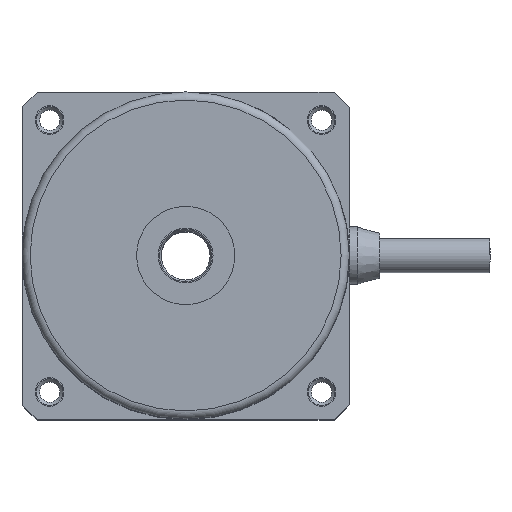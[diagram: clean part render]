
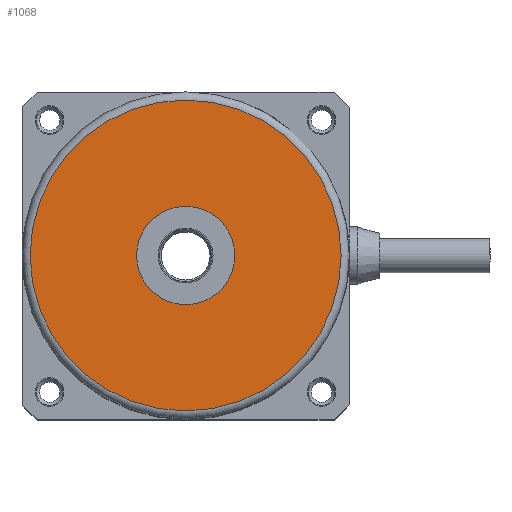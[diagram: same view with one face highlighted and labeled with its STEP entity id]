
A CAD part, top view. The second image highlights one B-rep face of the part: STEP entity #1068.
In plain terms, the highlighted planar face has unit normal (0, 0, 1).
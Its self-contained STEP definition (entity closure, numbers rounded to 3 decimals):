
#1068=ADVANCED_FACE('',(#1725,#1726),#1727,.T.);
#1725=FACE_OUTER_BOUND('',#3284,.T.);
#1726=FACE_BOUND('',#3285,.T.);
#1727=PLANE('',#3286);
#3284=EDGE_LOOP('',(#5118));
#3285=EDGE_LOOP('',(#5119));
#3286=AXIS2_PLACEMENT_3D('',#5120,#5121,#5122);
#5118=ORIENTED_EDGE('',*,*,#9034,.T.);
#5119=ORIENTED_EDGE('',*,*,#8958,.F.);
#5120=CARTESIAN_POINT('',(0.,0.,45.4));
#5121=DIRECTION('',(0.,0.,1.0));
#5122=DIRECTION('',(-1.0,0.,0.));
#8958=EDGE_CURVE('',#10325,#10325,#10326,.T.);
#9034=EDGE_CURVE('',#10473,#10473,#10474,.T.);
#10325=VERTEX_POINT('',#13002);
#10326=CIRCLE('',#13003,6.0);
#10473=VERTEX_POINT('',#13280);
#10474=CIRCLE('',#13281,19.0);
#13002=CARTESIAN_POINT('',(-6.0,0.,45.4));
#13003=AXIS2_PLACEMENT_3D('',#16499,#16500,#16501);
#13280=CARTESIAN_POINT('',(-19.0,0.,45.4));
#13281=AXIS2_PLACEMENT_3D('',#16653,#16654,#16655);
#16499=CARTESIAN_POINT('',(0.,0.,45.4));
#16500=DIRECTION('',(0.,0.,1.0));
#16501=DIRECTION('',(-1.0,0.,0.));
#16653=CARTESIAN_POINT('',(0.,0.,45.4));
#16654=DIRECTION('',(0.,0.,1.0));
#16655=DIRECTION('',(-1.0,0.,0.));
